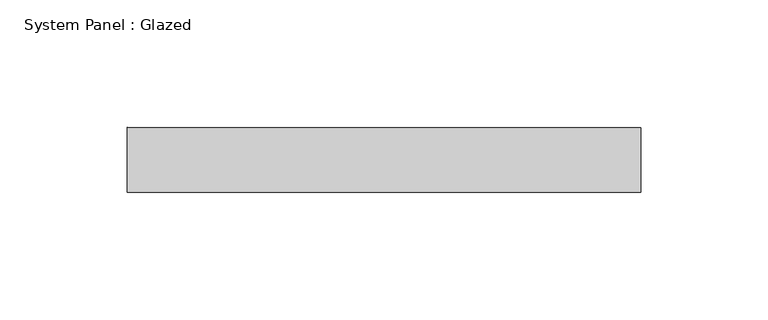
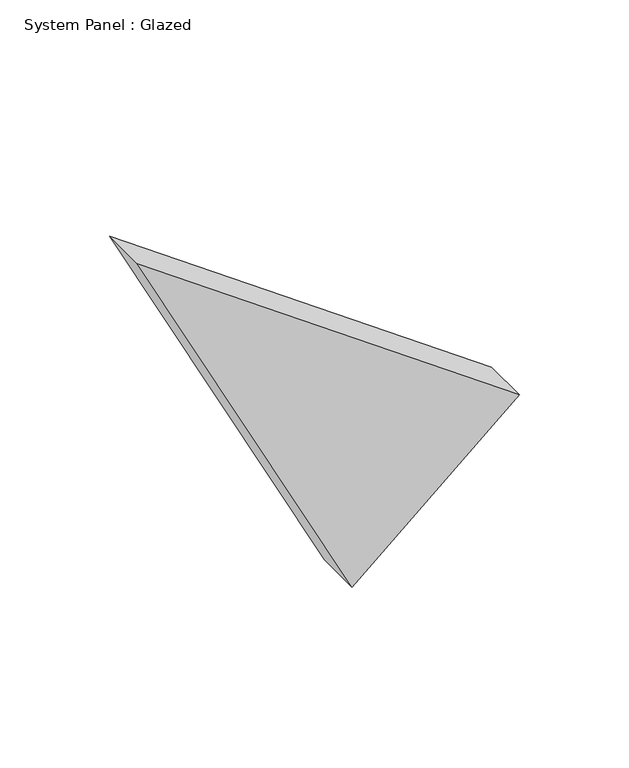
"""IFC4 building model written with IfcOpenShell, lengths in millimetres: plate geometry, System Panel : Glazed."""

import ifcopenshell
import ifcopenshell.guid

model = None  # the IFC model being written
_history = None  # IfcOwnerHistory: only IFC2X3 demands one
_inside = {}  # id of a spatial element -> (the spatial element, [elements in it])
_under = {}  # id of a project, library or spatial element -> (it, [spatial elements below it])
_declared = {}  # id of a project -> (the project, [libraries it declares])
_typed = {}  # id of a type object -> (the type object, [elements of that type])
_made_of = {}  # id of a material, layer set ... -> (it, [elements and type objects made of it])


def new_model(schema):
    """Start an empty IFC model of exactly this schema.

    Asked for "IFC4X3", IfcOpenShell would pick the latest addendum, in which some entities
    have other attributes; the version numbers below select the first issue.
    IFC2X3 requires an IfcOwnerHistory on every rooted entity: one is made here for all.
    """
    global model, _history
    if schema == "IFC4X3":
        model = ifcopenshell.file(schema_version=(4, 3, 0, 0))
    else:
        model = ifcopenshell.file(schema=schema)
    _inside.clear()
    _under.clear()
    _declared.clear()
    _typed.clear()
    _made_of.clear()
    _history = None
    if model.schema == "IFC2X3":
        org = make("IfcOrganization", Name="unknown")
        user = make(
            "IfcPersonAndOrganization",
            ThePerson=make("IfcPerson", FamilyName="unknown"),
            TheOrganization=org,
        )
        app = make(
            "IfcApplication",
            ApplicationDeveloper=org,
            Version="unknown",
            ApplicationFullName="unknown",
            ApplicationIdentifier="unknown",
        )
        _history = make(
            "IfcOwnerHistory",
            OwningUser=user,
            OwningApplication=app,
            ChangeAction="ADDED",
            CreationDate=0,
        )
    return model


def make(cls, **values):
    """One entity of the class cls with the attributes given. An attribute that is None is left unset."""
    return model.create_entity(
        cls, **{name: value for name, value in values.items() if value is not None}
    )


def rooted(cls, **values):
    """An entity with a GlobalId (a new one), such as an element, a storey or a relation."""
    return make(cls, GlobalId=ifcopenshell.guid.new(), OwnerHistory=_history, **values)


def si_unit(unit_type, name, prefix=None):
    """IfcSIUnit, for example si_unit("LENGTHUNIT", "METRE", prefix="MILLI")."""
    return make("IfcSIUnit", UnitType=unit_type, Prefix=prefix, Name=name)


def assignment(units):
    """IfcUnitAssignment: the units of a project."""
    return None if units is None else make("IfcUnitAssignment", Units=units)


def point(xyz):
    """IfcCartesianPoint."""
    return None if xyz is None else make("IfcCartesianPoint", Coordinates=xyz)


def direction(xyz):
    """IfcDirection."""
    return None if xyz is None else make("IfcDirection", DirectionRatios=xyz)


def frame(location, z_axis=None, x_axis=None):
    """IfcAxis2Placement3D, a coordinate frame: its origin and axes. An axis left out is left unset."""
    return make(
        "IfcAxis2Placement3D",
        Location=point(location),
        Axis=direction(z_axis),
        RefDirection=direction(x_axis),
    )


def origin():
    """The frame at (0, 0, 0) with its axes left unset."""
    return frame((0.0, 0.0, 0.0))


def place(relative_to, where):
    """IfcLocalPlacement: puts the frame where relative to a parent placement (None: the world)."""
    return make(
        "IfcLocalPlacement", PlacementRelTo=relative_to, RelativePlacement=where
    )


def context(
    kind, dimensions, precision=None, world=None, true_north=None, identifier=None
):
    """IfcGeometricRepresentationContext, for example the 3D "Model" context."""
    return make(
        "IfcGeometricRepresentationContext",
        ContextIdentifier=identifier,
        ContextType=kind,
        CoordinateSpaceDimension=dimensions,
        Precision=precision,
        WorldCoordinateSystem=world,
        TrueNorth=true_north,
    )


def project(units=None, contexts=None):
    """IfcProject with its units and contexts."""
    return rooted(
        "IfcProject",
        Name="project",
        RepresentationContexts=contexts,
        UnitsInContext=assignment(units),
    )


def spatial(cls, under=None, at=None, **own):
    """A site, building, storey or space (cls), placed at a placement, below another one or the project."""
    s = rooted(cls, ObjectPlacement=at, **own)
    if under is not None:
        _under.setdefault(under.id(), (under, []))[1].append(s)
    return s


def polyline(points):
    """IfcPolyline through the points."""
    return make("IfcPolyline", Points=[point(p) for p in points])


def outline(outer, holes=None, kind="AREA"):
    """IfcArbitraryClosedProfileDef: a profile drawn as a closed curve; with holes, ...WithVoids."""
    if holes is None:
        return make("IfcArbitraryClosedProfileDef", ProfileType=kind, OuterCurve=outer)
    return make(
        "IfcArbitraryProfileDefWithVoids",
        ProfileType=kind,
        OuterCurve=outer,
        InnerCurves=holes,
    )


def extrude(swept, where, along, depth):
    """IfcExtrudedAreaSolid: the profile swept, set in the frame where, extruded along a direction by depth."""
    return make(
        "IfcExtrudedAreaSolid",
        SweptArea=swept,
        Position=where,
        ExtrudedDirection=direction(along),
        Depth=depth,
    )


def shape(context_of_items, identifier, shape_type, items):
    """IfcShapeRepresentation: the items that make up one representation, for example the "Body"."""
    return make(
        "IfcShapeRepresentation",
        ContextOfItems=context_of_items,
        RepresentationIdentifier=identifier,
        RepresentationType=shape_type,
        Items=items,
    )


def source(mapping_origin, context_of_items, identifier, shape_type, items):
    """IfcRepresentationMap: a shape defined once, which mapped items show again and again."""
    return make(
        "IfcRepresentationMap",
        MappingOrigin=mapping_origin,
        MappedRepresentation=shape(context_of_items, identifier, shape_type, items),
    )


def transform(
    local_origin,
    x_axis=None,
    y_axis=None,
    z_axis=None,
    scale=None,
    scale2=None,
    scale3=None,
    uniform=True,
):
    """IfcCartesianTransformationOperator3D, or its non-uniform kind. x_axis, y_axis, z_axis: its Axis1, 2, 3."""
    if uniform:
        return make(
            "IfcCartesianTransformationOperator3D",
            Axis1=direction(x_axis),
            Axis2=direction(y_axis),
            LocalOrigin=point(local_origin),
            Scale=scale,
            Axis3=direction(z_axis),
        )
    return make(
        "IfcCartesianTransformationOperator3DnonUniform",
        Axis1=direction(x_axis),
        Axis2=direction(y_axis),
        LocalOrigin=point(local_origin),
        Scale=scale,
        Axis3=direction(z_axis),
        Scale2=scale2,
        Scale3=scale3,
    )


def mapped(mapping_source, mapping_target):
    """IfcMappedItem: shows the shape of a source again, moved by a transform."""
    return make(
        "IfcMappedItem", MappingSource=mapping_source, MappingTarget=mapping_target
    )


def made_of(thing, what):
    """Note that an element or type object is made of a material, layer set ...; save() writes the relation."""
    if what is not None:
        _made_of.setdefault(what.id(), (what, []))[1].append(thing)
    return thing


def element(
    cls,
    number,
    at=None,
    inside=None,
    cuts=None,
    type_object=None,
    material=None,
    context=None,
    identifier="Body",
    shape_type=None,
    held_by="IfcProductDefinitionShape",
    body=None,
    shapes=None,
    **own,
):
    """One element of the class cls, such as IfcWall. Its Tag is "e" and its number.

    at: its placement. inside: the storey or other place that contains it. cuts: it is an
    opening in that element (IfcRelVoidsElement). A single representation is given by context,
    identifier, shape_type and body (its items); several are given by shapes. held_by: the class
    of the entity that holds the representations. save() writes the other relations.
    """
    e = rooted(cls, Tag="e%d" % number, ObjectPlacement=at, **own)
    if body is not None:
        shapes = [shape(context, identifier, shape_type, body)]
    if shapes is not None:
        e.Representation = make(held_by, Representations=shapes)
    if inside is not None:
        _inside.setdefault(inside.id(), (inside, []))[1].append(e)
    if cuts is not None:
        rooted(
            "IfcRelVoidsElement", RelatingBuildingElement=cuts, RelatedOpeningElement=e
        )
    if type_object is not None:
        _typed.setdefault(type_object.id(), (type_object, []))[1].append(e)
    return made_of(e, material)


def aggregate(whole, parts):
    """IfcRelAggregates: a whole, such as a stair, and the parts it consists of."""
    return rooted("IfcRelAggregates", RelatingObject=whole, RelatedObjects=parts)


def save(model, path):
    """Write the relations noted so far, then the file.

    IfcRelAggregates (storeys below a building ...), IfcRelContainedInSpatialStructure (elements
    in a storey), IfcRelDefinesByType, IfcRelAssociatesMaterial and IfcRelDeclares: one each for
    every whole, place, type object, material and project.
    """
    for whole, parts in _under.values():
        aggregate(whole, parts)
    for where, things in _inside.values():
        rooted(
            "IfcRelContainedInSpatialStructure",
            RelatedElements=things,
            RelatingStructure=where,
        )
    for kind, things in _typed.values():
        rooted("IfcRelDefinesByType", RelatedObjects=things, RelatingType=kind)
    for what, things in _made_of.values():
        rooted("IfcRelAssociatesMaterial", RelatedObjects=things, RelatingMaterial=what)
    for by, libraries in _declared.values():
        rooted("IfcRelDeclares", RelatingContext=by, RelatedDefinitions=libraries)
    model.write(path)


def system_panel_glazed_730a745b(model_context):
    return source(origin(), model_context, "Body", "SweptSolid", [
        extrude(outline(polyline([(0.0, 12.5753984), (76.1965989, 100.5975988), (219.6771406, -100.5975988), (0.0, 12.5753984)])), frame((0.0, 19.05, 0.0), z_axis=(0.0, 1.0, 0.0), x_axis=(0.0, 0.0, 1.0)), (0.0, 0.0, 1.0), 25.4),
    ])


if __name__ == "__main__":
    model = new_model("IFC4")
    model_context = context("Model", 3, world=origin())
    ifc_project = project(units=[si_unit("LENGTHUNIT", "METRE", prefix="MILLI")], contexts=[model_context])
    site = spatial("IfcSite", under=ifc_project)
    building = spatial("IfcBuilding", under=site)
    placement = place(None, origin())
    system_panel_glazed_shape = system_panel_glazed_730a745b(model_context)
    element("IfcPlate", 1, ObjectType="System Panel : Glazed", at=placement, inside=building, context=model_context, shape_type="MappedRepresentation", body=[
        mapped(system_panel_glazed_shape, transform((0.0, 0.0, 0.0), x_axis=(1.0, 0.0, 0.0), y_axis=(0.0, 1.0, 0.0), z_axis=(0.0, 0.0, 1.0))),
    ])
    save(model, "model.ifc")
